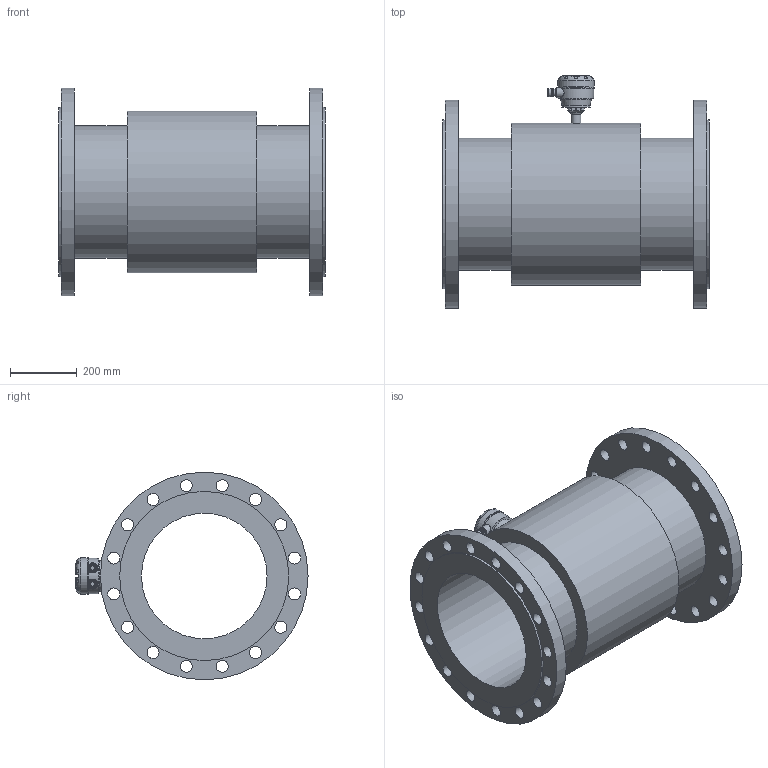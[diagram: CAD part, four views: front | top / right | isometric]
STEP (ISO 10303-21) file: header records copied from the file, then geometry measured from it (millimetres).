
FILE_DESCRIPTION (( 'STEP AP203' ), '1' );
FILE_NAME ('KROHNE_OPTIFLUX_2-4000W_DIN2634_DN400_PN25.STEP', '2011-04-26T11:25:23', ( '' ), ( '' ), 'SwSTEP 2.0', 'SolidWorks 2010', '' );
FILE_SCHEMA (( 'CONFIG_CONTROL_DESIGN' ));
Length unit declared in the file: millimetre
Products named in the file (1): KROHNE_OPTIFLUX_2-4000W_DIN2634_DN400_PN25
Bounding box: 796 x 692.99 x 620 mm (x, y, z)
Volume: 47988481.9 mm3; surface area: 3139466.3 mm2
Topology: 14 solids, 14 shells, 359 faces, 899 edges, 590 vertices
Faces by surface type: plane 158, cylinder 111, bspline 53, torus 18, sphere 13, cone 6
Full cylindrical faces by diameter (mm): 4 x4, 6.6 x8, 13 x2, 20 x2, 23.5 x4, 29 x1, 30 x2, 36 x32, 84 x2, 109 x1, 375 x1, 395 x2, 483 x1, 505 x2, 620 x2
Entity records: 14523 total; most frequent: CARTESIAN_POINT 6576, ORIENTED_EDGE 1522, DIRECTION 1509, EDGE_CURVE 761, AXIS2_PLACEMENT_3D 573, EDGE_LOOP 566, VERTEX_POINT 545, FACE_OUTER_BOUND 442
